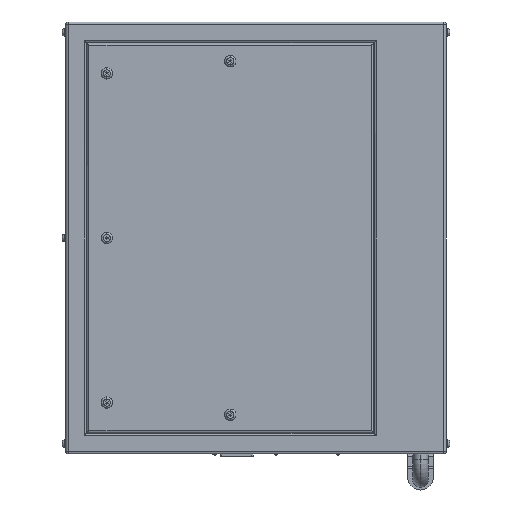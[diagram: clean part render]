
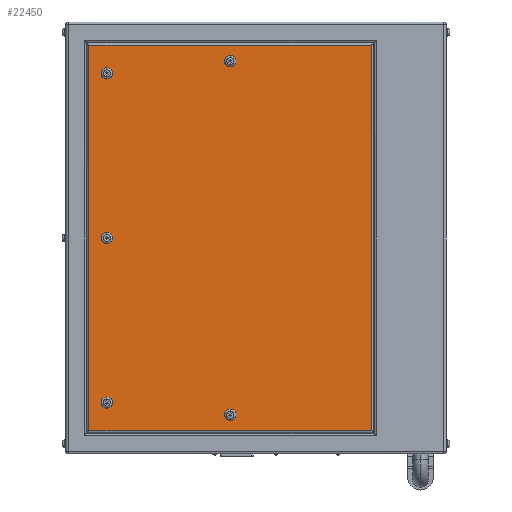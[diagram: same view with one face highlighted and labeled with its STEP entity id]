
A CAD part, left-side view. The second image highlights one B-rep face of the part: STEP entity #22450.
In plain terms, the highlighted planar face has unit normal (-1, 0, 0).
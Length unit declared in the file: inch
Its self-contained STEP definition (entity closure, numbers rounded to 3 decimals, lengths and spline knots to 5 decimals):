
#18 = DIRECTION ( 'NONE',  ( 0., 0., 1. ) ) ;
#780 = VECTOR ( 'NONE', #14316, 39.37008 ) ;
#830 = VECTOR ( 'NONE', #23400, 39.37008 ) ;
#999 = CARTESIAN_POINT ( 'NONE',  ( -11., 14.5, 16.55 ) ) ;
#1245 = CARTESIAN_POINT ( 'NONE',  ( -11., 14.5, 15.45 ) ) ;
#1284 = DIRECTION ( 'NONE',  ( 1., 0., 0. ) ) ;
#1346 = VERTEX_POINT ( 'NONE', #18220 ) ;
#1412 = CIRCLE ( 'NONE', #18171, 0.55 ) ;
#1487 = CARTESIAN_POINT ( 'NONE',  ( -11., 14.5, -16.55 ) ) ;
#1514 = VERTEX_POINT ( 'NONE', #4510 ) ;
#1620 = VERTEX_POINT ( 'NONE', #6464 ) ;
#2128 = FACE_BOUND ( 'NONE', #6261, .T. ) ;
#2303 = VERTEX_POINT ( 'NONE', #8870 ) ;
#2397 = DIRECTION ( 'NONE',  ( 0., 0., -1. ) ) ;
#2422 = CARTESIAN_POINT ( 'NONE',  ( -11., 16.24, -18.74 ) ) ;
#2701 = DIRECTION ( 'NONE',  ( 0., 0., -1. ) ) ;
#2951 = CARTESIAN_POINT ( 'NONE',  ( -11., 2.5, -17.74 ) ) ;
#2972 = CARTESIAN_POINT ( 'NONE',  ( -11., 14.5, -16. ) ) ;
#3171 = CARTESIAN_POINT ( 'NONE',  ( -11., 18.5, 18.74 ) ) ;
#3277 = ORIENTED_EDGE ( 'NONE', *, *, #19401, .T. ) ;
#3308 = ORIENTED_EDGE ( 'NONE', *, *, #7251, .T. ) ;
#3489 = DIRECTION ( 'NONE',  ( 0., 0., 1. ) ) ;
#3514 = CARTESIAN_POINT ( 'NONE',  ( -11., 14.5, 16. ) ) ;
#3546 = DIRECTION ( 'NONE',  ( 0., 0., -1. ) ) ;
#4023 = DIRECTION ( 'NONE',  ( 1., 0., 0. ) ) ;
#4181 = LINE ( 'NONE', #11451, #8080 ) ;
#4187 = ORIENTED_EDGE ( 'NONE', *, *, #21863, .T. ) ;
#4242 = DIRECTION ( 'NONE',  ( 1., 0., 0. ) ) ;
#4412 = ORIENTED_EDGE ( 'NONE', *, *, #17476, .T. ) ;
#4510 = CARTESIAN_POINT ( 'NONE',  ( -11., -11.24, 18.74 ) ) ;
#4991 = DIRECTION ( 'NONE',  ( 0., 0., -1. ) ) ;
#5075 = LINE ( 'NONE', #6728, #830 ) ;
#5137 = EDGE_CURVE ( 'NONE', #14164, #13791, #16227, .T. ) ;
#5278 = VERTEX_POINT ( 'NONE', #7824 ) ;
#5328 = CARTESIAN_POINT ( 'NONE',  ( -11., 14.5, 0. ) ) ;
#5331 = CARTESIAN_POINT ( 'NONE',  ( -11., 14.5, 0. ) ) ;
#5407 = DIRECTION ( 'NONE',  ( 0., 0., -1. ) ) ;
#5417 = VERTEX_POINT ( 'NONE', #6265 ) ;
#5464 = FACE_BOUND ( 'NONE', #9937, .T. ) ;
#5812 = EDGE_CURVE ( 'NONE', #5278, #5417, #1412, .T. ) ;
#6103 = CIRCLE ( 'NONE', #14119, 0.55 ) ;
#6261 = EDGE_LOOP ( 'NONE', ( #4412, #19822 ) ) ;
#6265 = CARTESIAN_POINT ( 'NONE',  ( -11., 14.5, 0.55 ) ) ;
#6319 = AXIS2_PLACEMENT_3D ( 'NONE', #2972, #10221, #4991 ) ;
#6464 = CARTESIAN_POINT ( 'NONE',  ( -11., -11.24, -18.74 ) ) ;
#6597 = ORIENTED_EDGE ( 'NONE', *, *, #5137, .T. ) ;
#6728 = CARTESIAN_POINT ( 'NONE',  ( -11., 18.5, -18.74 ) ) ;
#6805 = CARTESIAN_POINT ( 'NONE',  ( -11., 2.5, 17.19 ) ) ;
#6997 = CIRCLE ( 'NONE', #7415, 0.55 ) ;
#7046 = DIRECTION ( 'NONE',  ( 1., 0., 0. ) ) ;
#7061 = CARTESIAN_POINT ( 'NONE',  ( -11., 16.24, 18.74 ) ) ;
#7122 = FACE_BOUND ( 'NONE', #19755, .T. ) ;
#7251 = EDGE_CURVE ( 'NONE', #1620, #1514, #10480, .T. ) ;
#7335 = EDGE_LOOP ( 'NONE', ( #16889, #3308, #12957, #17677 ) ) ;
#7349 = CARTESIAN_POINT ( 'NONE',  ( -11., 2.5, 16.64 ) ) ;
#7415 = AXIS2_PLACEMENT_3D ( 'NONE', #3514, #17929, #5407 ) ;
#7650 = CARTESIAN_POINT ( 'NONE',  ( -11., 14.5, -15.45 ) ) ;
#7661 = ORIENTED_EDGE ( 'NONE', *, *, #8158, .T. ) ;
#7824 = CARTESIAN_POINT ( 'NONE',  ( -11., 14.5, -0.55 ) ) ;
#8080 = VECTOR ( 'NONE', #2397, 39.37008 ) ;
#8158 = EDGE_CURVE ( 'NONE', #15671, #16503, #6103, .T. ) ;
#8647 = ORIENTED_EDGE ( 'NONE', *, *, #12684, .T. ) ;
#8870 = CARTESIAN_POINT ( 'NONE',  ( -11., 2.5, -16.64 ) ) ;
#9157 = CARTESIAN_POINT ( 'NONE',  ( -11., 2.5, -17.19 ) ) ;
#9160 = FACE_BOUND ( 'NONE', #15432, .T. ) ;
#9220 = EDGE_CURVE ( 'NONE', #5417, #5278, #12028, .T. ) ;
#9937 = EDGE_LOOP ( 'NONE', ( #14622, #12079 ) ) ;
#10221 = DIRECTION ( 'NONE',  ( 1., 0., 0. ) ) ;
#10480 = LINE ( 'NONE', #15969, #780 ) ;
#10782 = LINE ( 'NONE', #3171, #11758 ) ;
#10788 = EDGE_CURVE ( 'NONE', #1346, #20399, #14429, .T. ) ;
#11174 = FACE_BOUND ( 'NONE', #11846, .T. ) ;
#11238 = EDGE_CURVE ( 'NONE', #1514, #20043, #10782, .T. ) ;
#11451 = CARTESIAN_POINT ( 'NONE',  ( -11., 16.24, -21. ) ) ;
#11574 = AXIS2_PLACEMENT_3D ( 'NONE', #12293, #19687, #3489 ) ;
#11758 = VECTOR ( 'NONE', #14600, 39.37008 ) ;
#11846 = EDGE_LOOP ( 'NONE', ( #3277, #7661 ) ) ;
#11968 = VERTEX_POINT ( 'NONE', #2422 ) ;
#12003 = CARTESIAN_POINT ( 'NONE',  ( -11., 14.5, 16. ) ) ;
#12028 = CIRCLE ( 'NONE', #15477, 0.55 ) ;
#12079 = ORIENTED_EDGE ( 'NONE', *, *, #9220, .T. ) ;
#12293 = CARTESIAN_POINT ( 'NONE',  ( -11., 2.5, -17.19 ) ) ;
#12615 = DIRECTION ( 'NONE',  ( 1., 0., 0. ) ) ;
#12618 = DIRECTION ( 'NONE',  ( 0., 0., -1. ) ) ;
#12684 = EDGE_CURVE ( 'NONE', #2303, #22598, #16142, .T. ) ;
#12957 = ORIENTED_EDGE ( 'NONE', *, *, #11238, .T. ) ;
#13081 = PLANE ( 'NONE',  #13306 ) ;
#13178 = ORIENTED_EDGE ( 'NONE', *, *, #13212, .T. ) ;
#13212 = EDGE_CURVE ( 'NONE', #13791, #14164, #6997, .T. ) ;
#13306 = AXIS2_PLACEMENT_3D ( 'NONE', #20357, #4023, #12618 ) ;
#13791 = VERTEX_POINT ( 'NONE', #999 ) ;
#14119 = AXIS2_PLACEMENT_3D ( 'NONE', #23132, #19428, #23245 ) ;
#14164 = VERTEX_POINT ( 'NONE', #1245 ) ;
#14316 = DIRECTION ( 'NONE',  ( 0., 0., 1. ) ) ;
#14429 = CIRCLE ( 'NONE', #17836, 0.55 ) ;
#14514 = DIRECTION ( 'NONE',  ( 1., 0., 0. ) ) ;
#14600 = DIRECTION ( 'NONE',  ( 0., 1., 0. ) ) ;
#14622 = ORIENTED_EDGE ( 'NONE', *, *, #5812, .T. ) ;
#14739 = DIRECTION ( 'NONE',  ( 0., 0., -1. ) ) ;
#14759 = FACE_OUTER_BOUND ( 'NONE', #7335, .T. ) ;
#15004 = EDGE_CURVE ( 'NONE', #11968, #1620, #5075, .T. ) ;
#15432 = EDGE_LOOP ( 'NONE', ( #4187, #8647 ) ) ;
#15477 = AXIS2_PLACEMENT_3D ( 'NONE', #5328, #14514, #3546 ) ;
#15671 = VERTEX_POINT ( 'NONE', #7650 ) ;
#15696 = EDGE_CURVE ( 'NONE', #20043, #11968, #4181, .T. ) ;
#15969 = CARTESIAN_POINT ( 'NONE',  ( -11., -11.24, -21. ) ) ;
#16142 = CIRCLE ( 'NONE', #11574, 0.55 ) ;
#16227 = CIRCLE ( 'NONE', #19258, 0.55 ) ;
#16503 = VERTEX_POINT ( 'NONE', #1487 ) ;
#16596 = CIRCLE ( 'NONE', #6319, 0.55 ) ;
#16889 = ORIENTED_EDGE ( 'NONE', *, *, #15004, .T. ) ;
#17476 = EDGE_CURVE ( 'NONE', #20399, #1346, #19992, .T. ) ;
#17677 = ORIENTED_EDGE ( 'NONE', *, *, #15696, .T. ) ;
#17836 = AXIS2_PLACEMENT_3D ( 'NONE', #22470, #4242, #14739 ) ;
#17929 = DIRECTION ( 'NONE',  ( 1., 0., 0. ) ) ;
#18171 = AXIS2_PLACEMENT_3D ( 'NONE', #5331, #21896, #19987 ) ;
#18199 = AXIS2_PLACEMENT_3D ( 'NONE', #9157, #12615, #18 ) ;
#18220 = CARTESIAN_POINT ( 'NONE',  ( -11., 2.5, 17.74 ) ) ;
#18838 = AXIS2_PLACEMENT_3D ( 'NONE', #6805, #7046, #2701 ) ;
#19258 = AXIS2_PLACEMENT_3D ( 'NONE', #12003, #1284, #22981 ) ;
#19325 = CIRCLE ( 'NONE', #18199, 0.55 ) ;
#19401 = EDGE_CURVE ( 'NONE', #16503, #15671, #16596, .T. ) ;
#19428 = DIRECTION ( 'NONE',  ( 1., 0., 0. ) ) ;
#19687 = DIRECTION ( 'NONE',  ( 1., 0., 0. ) ) ;
#19755 = EDGE_LOOP ( 'NONE', ( #6597, #13178 ) ) ;
#19822 = ORIENTED_EDGE ( 'NONE', *, *, #10788, .T. ) ;
#19987 = DIRECTION ( 'NONE',  ( 0., 0., -1. ) ) ;
#19992 = CIRCLE ( 'NONE', #18838, 0.55 ) ;
#20043 = VERTEX_POINT ( 'NONE', #7061 ) ;
#20357 = CARTESIAN_POINT ( 'NONE',  ( -11., 18.5, -21. ) ) ;
#20399 = VERTEX_POINT ( 'NONE', #7349 ) ;
#21863 = EDGE_CURVE ( 'NONE', #22598, #2303, #19325, .T. ) ;
#21896 = DIRECTION ( 'NONE',  ( 1., 0., 0. ) ) ;
#22450 = ADVANCED_FACE ( 'NONE', ( #9160, #2128, #11174, #5464, #7122, #14759 ), #13081, .F. ) ;
#22470 = CARTESIAN_POINT ( 'NONE',  ( -11., 2.5, 17.19 ) ) ;
#22598 = VERTEX_POINT ( 'NONE', #2951 ) ;
#22981 = DIRECTION ( 'NONE',  ( 0., 0., -1. ) ) ;
#23132 = CARTESIAN_POINT ( 'NONE',  ( -11., 14.5, -16. ) ) ;
#23245 = DIRECTION ( 'NONE',  ( 0., 0., -1. ) ) ;
#23400 = DIRECTION ( 'NONE',  ( 0., -1., 0. ) ) ;
